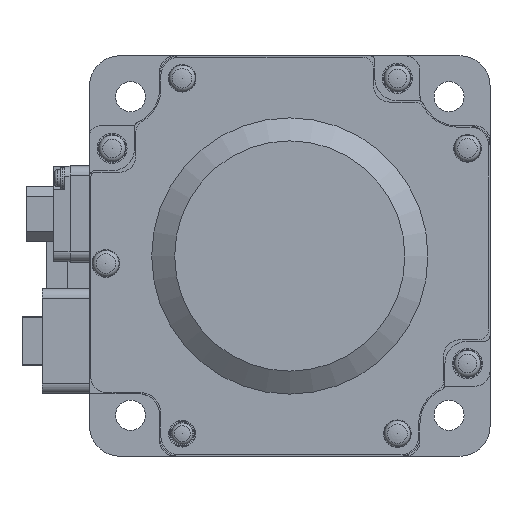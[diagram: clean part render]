
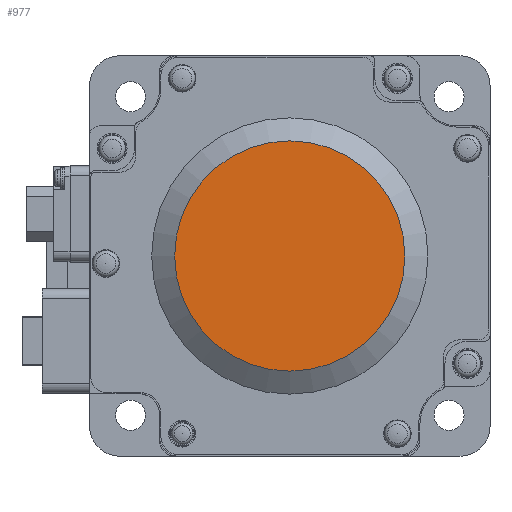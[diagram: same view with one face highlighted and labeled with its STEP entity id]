
A CAD part, left-side view. The second image highlights one B-rep face of the part: STEP entity #977.
In plain terms, the highlighted planar face has unit normal (-1, 0, 0).
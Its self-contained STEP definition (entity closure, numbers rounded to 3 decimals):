
#977 = ADVANCED_FACE( '', ( #2589 ), #2590, .F. );
#2589 = FACE_OUTER_BOUND( '', #5072, .T. );
#2590 = PLANE( '', #5073 );
#5072 = EDGE_LOOP( '', ( #8359 ) );
#5073 = AXIS2_PLACEMENT_3D( '', #8360, #8361, #8362 );
#8359 = ORIENTED_EDGE( '', *, *, #14404, .F. );
#8360 = CARTESIAN_POINT( '', ( -151.2, 0., 0. ) );
#8361 = DIRECTION( '', ( 1., 0., 0. ) );
#8362 = DIRECTION( '', ( 0., 0., -1. ) );
#14404 = EDGE_CURVE( '', #17365, #17365, #17366, .T. );
#17365 = VERTEX_POINT( '', #21404 );
#17366 = CIRCLE( '', #21405, 23. );
#21404 = CARTESIAN_POINT( '', ( -151.2, 0., -23. ) );
#21405 = AXIS2_PLACEMENT_3D( '', #25792, #25793, #25794 );
#25792 = CARTESIAN_POINT( '', ( -151.2, 0., 0. ) );
#25793 = DIRECTION( '', ( 1., 0., 0. ) );
#25794 = DIRECTION( '', ( 0., 0., -1. ) );
